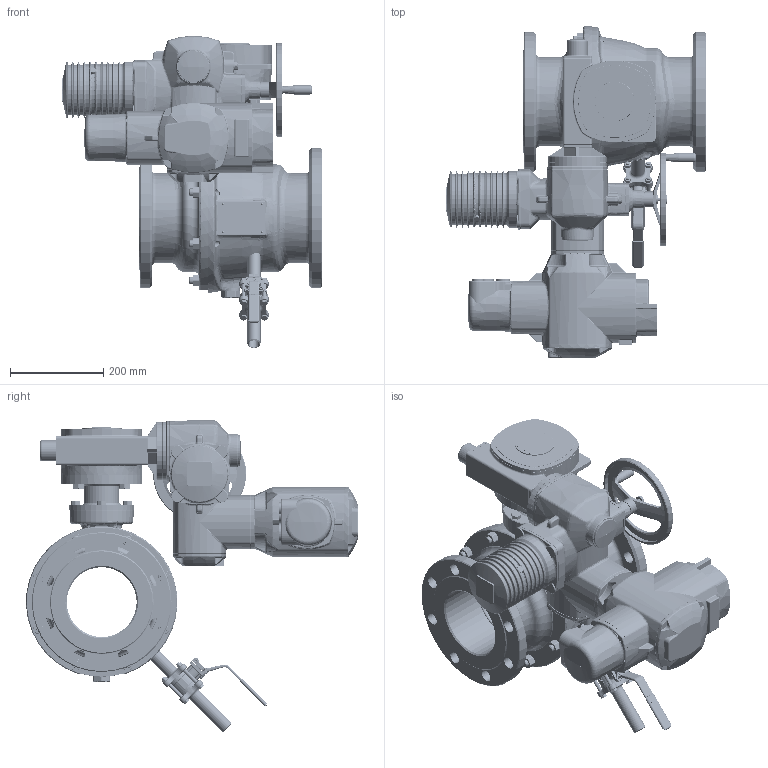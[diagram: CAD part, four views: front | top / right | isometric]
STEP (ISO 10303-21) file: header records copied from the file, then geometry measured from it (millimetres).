
FILE_DESCRIPTION((''),'2;1');
FILE_NAME('250_ASM','2017-01-17T',('schwaba'),('RAND'),'PRO/ENGINEER BY PARAMETRIC TECHNOLOGY CORPORATION, 2016100','PRO/ENGINEER BY PARAMETRIC TECHNOLOGY CORPORATION, 2016100','');
FILE_SCHEMA(('CONFIG_CONTROL_DESIGN'));
Products named in the file (3): KHI_150_PN25-40_FR_WE_ENTL_O_IT; GS80_F14_SA10_AM_ZWSTK_DN150; 250_ASM
Assembly tree (2 placements, depth 2):
  250_ASM
    KHI_150_PN25-40_FR_WE_ENTL_O_IT
    GS80_F14_SA10_AM_ZWSTK_DN150
Bounding box: 560 x 712.43 x 669.54 mm (x, y, z)
Volume: 28792729.5 mm3; surface area: 2300379.6 mm2
Topology: 3 solids, 8 shells, 5945 faces, 14481 edges, 8693 vertices
Faces by surface type: plane 1870, bspline 1304, cylinder 1247, torus 709, cone 679, sphere 134, extrusion 2
Entity records: 359693 total; most frequent: CARTESIAN_POINT 228955, ORIENTED_EDGE 28830, DIRECTION 25546, EDGE_CURVE 14415, AXIS2_PLACEMENT_3D 9966, VERTEX_POINT 8692, EDGE_LOOP 6261, FACE_OUTER_BOUND 5944
